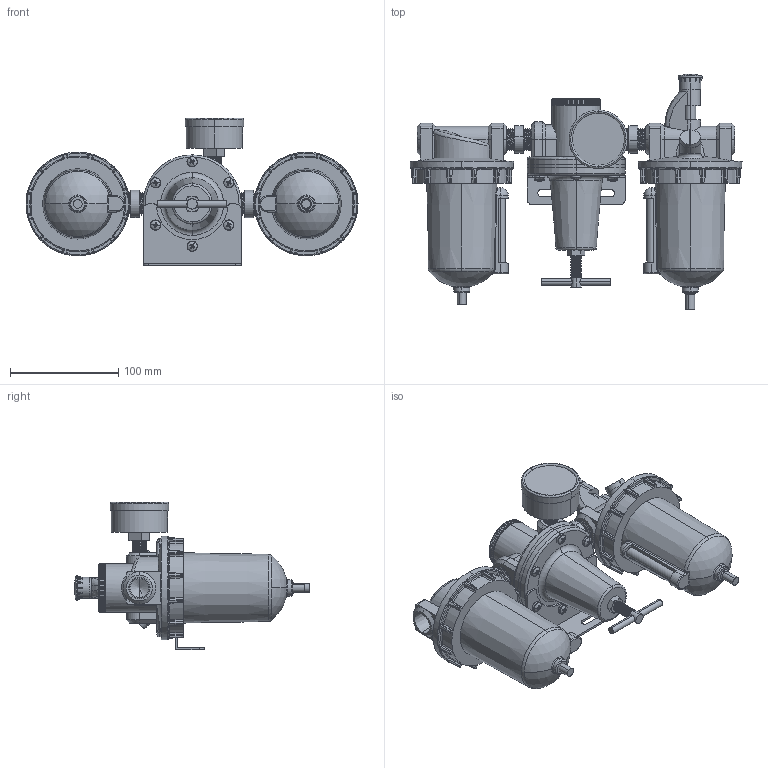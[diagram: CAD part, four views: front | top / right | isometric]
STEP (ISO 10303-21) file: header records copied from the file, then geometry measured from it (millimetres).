
FILE_DESCRIPTION (( 'STEP AP203' ), '1' );
FILE_NAME ('C628W-04#YB#.STEP', '2016-01-14T17:32:36', ( '' ), ( '' ), 'SwSTEP 2.0', 'SolidWorks 2014', '' );
FILE_SCHEMA (( 'CONFIG_CONTROL_DESIGN' ));
Length unit declared in the file: millimetre
Products named in the file (26): R119-04-3; R119-02-6; L606W-04; L606-W-06-2; R119-02-5; F602-04-上; 50-P-AD=1-4PT-1; 50-P-AD=1-4PT-2; L606-W-06-4; R119-04-2; L606-W-04-1; R119-04-1; R119-04-4; R119-02-7; F602W-04#YB#; 50-P-AD=1-4PT.SLDPRT; ISO 7045 - M5 x 12; L606-W-04; KW18A57; L606-W-06-3; L606-W-06-5; L606-W-04-下; R119-04; C628W-04#YB#; L606-W-04-分割; 1-2-圓
Assembly tree (34 placements, depth 4):
  C628W-04#YB#
    F602W-04#YB#
      F602-04-上
      L606-W-06-2
      L606-W-06-5
      L606-W-04-下
    R119-04
      R119-04-1
      R119-04-2
      R119-04-3
      R119-04-4
      R119-02-5
      R119-02-7
      R119-02-6
      ISO 7045 - M5 x 12  x6
      50-P-AD=1-4PT.SLDPRT
        50-P-AD=1-4PT-1
        50-P-AD=1-4PT-2
      KW18A57
    L606W-04
      L606-W-06-2
      L606-W-06-5
      L606-W-06-4
      L606-W-06-3  x2
      L606-W-04
      L606-W-04-1
      L606-W-04-分割
    1-2-圓  x2
Bounding box: 306.25 x 217 x 136 mm (x, y, z)
Volume: 1428891.6 mm3; surface area: 231652 mm2
Topology: 30 solids, 30 shells, 1678 faces, 4124 edges, 2461 vertices
Faces by surface type: plane 554, cylinder 378, cone 328, bspline 230, torus 110, sphere 78
Entity records: 61349 total; most frequent: CARTESIAN_POINT 27382, ORIENTED_EDGE 6936, DIRECTION 6039, EDGE_CURVE 3468, AXIS2_PLACEMENT_3D 2499, VERTEX_POINT 2096, EDGE_LOOP 1492, FACE_OUTER_BOUND 1440
